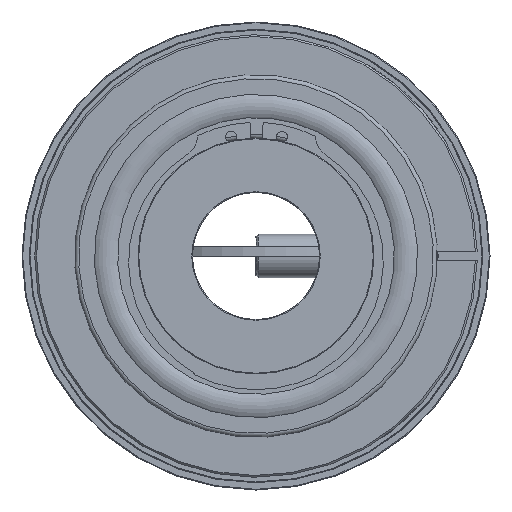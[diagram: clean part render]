
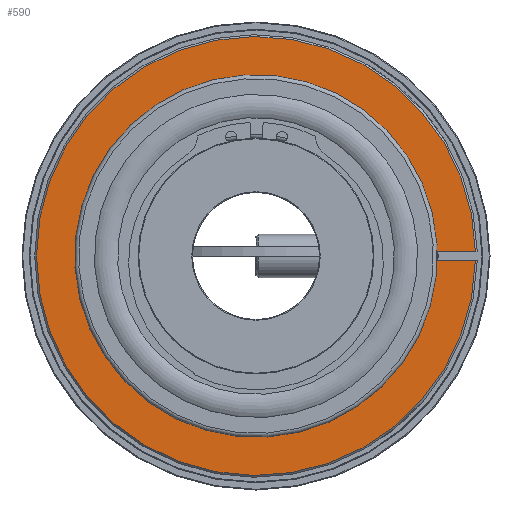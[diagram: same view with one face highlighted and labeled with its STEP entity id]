
A CAD part, left-side view. The second image highlights one B-rep face of the part: STEP entity #590.
In plain terms, the highlighted planar face has unit normal (-1, 0, 0).
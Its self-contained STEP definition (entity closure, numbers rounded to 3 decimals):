
#590 = ADVANCED_FACE( '', ( #921 ), #922, .F. );
#921 = FACE_OUTER_BOUND( '', #1324, .T. );
#922 = PLANE( '', #1325 );
#1324 = EDGE_LOOP( '', ( #1896, #1897, #1898, #1899, #1900, #1901, #1902, #1903 ) );
#1325 = AXIS2_PLACEMENT_3D( '', #1904, #1905, #1906 );
#1896 = ORIENTED_EDGE( '', *, *, #2895, .T. );
#1897 = ORIENTED_EDGE( '', *, *, #2876, .T. );
#1898 = ORIENTED_EDGE( '', *, *, #2872, .T. );
#1899 = ORIENTED_EDGE( '', *, *, #2881, .T. );
#1900 = ORIENTED_EDGE( '', *, *, #2894, .T. );
#1901 = ORIENTED_EDGE( '', *, *, #2890, .T. );
#1902 = ORIENTED_EDGE( '', *, *, #2896, .T. );
#1903 = ORIENTED_EDGE( '', *, *, #2897, .T. );
#1904 = CARTESIAN_POINT( '', ( -42., 61., 0. ) );
#1905 = DIRECTION( '', ( 1., 0., 0. ) );
#1906 = DIRECTION( '', ( 0., 1., 0. ) );
#2872 = EDGE_CURVE( '', #3165, #3163, #3166, .T. );
#2876 = EDGE_CURVE( '', #3170, #3165, #3172, .F. );
#2881 = EDGE_CURVE( '', #3163, #3178, #3181, .T. );
#2890 = EDGE_CURVE( '', #3197, #3195, #3198, .T. );
#2894 = EDGE_CURVE( '', #3178, #3197, #3203, .T. );
#2895 = EDGE_CURVE( '', #3204, #3170, #3205, .T. );
#2896 = EDGE_CURVE( '', #3195, #3206, #3207, .T. );
#2897 = EDGE_CURVE( '', #3206, #3204, #3208, .T. );
#3163 = VERTEX_POINT( '', #3715 );
#3165 = VERTEX_POINT( '', #3720 );
#3166 = LINE( '', #3721, #3722 );
#3170 = VERTEX_POINT( '', #3729 );
#3172 = CIRCLE( '', #3734, 60.5 );
#3178 = VERTEX_POINT( '', #3746 );
#3181 = CIRCLE( '', #3752, 35.5 );
#3195 = VERTEX_POINT( '', #3767 );
#3197 = VERTEX_POINT( '', #3770 );
#3198 = CIRCLE( '', #3771, 1.3 );
#3203 = LINE( '', #3781, #3782 );
#3204 = VERTEX_POINT( '', #3783 );
#3205 = LINE( '', #3784, #3785 );
#3206 = VERTEX_POINT( '', #3786 );
#3207 = LINE( '', #3787, #3788 );
#3208 = CIRCLE( '', #3789, 35.5 );
#3715 = CARTESIAN_POINT( '', ( -42., -35.476, -1.3 ) );
#3720 = CARTESIAN_POINT( '', ( -42., -60.486, -1.3 ) );
#3721 = CARTESIAN_POINT( '', ( -42., 61., -1.3 ) );
#3722 = VECTOR( '', #4120, 1000. );
#3729 = CARTESIAN_POINT( '', ( -42., -60.486, 1.3 ) );
#3734 = AXIS2_PLACEMENT_3D( '', #4124, #4125, #4126 );
#3746 = CARTESIAN_POINT( '', ( -42., 35.476, -1.3 ) );
#3752 = AXIS2_PLACEMENT_3D( '', #4130, #4131, #4132 );
#3767 = CARTESIAN_POINT( '', ( -42., 43.7, 1.3 ) );
#3770 = CARTESIAN_POINT( '', ( -42., 43.7, -1.3 ) );
#3771 = AXIS2_PLACEMENT_3D( '', #4153, #4154, #4155 );
#3781 = CARTESIAN_POINT( '', ( -42., 61., -1.3 ) );
#3782 = VECTOR( '', #4158, 1000. );
#3783 = CARTESIAN_POINT( '', ( -42., -35.476, 1.3 ) );
#3784 = CARTESIAN_POINT( '', ( -42., 61., 1.3 ) );
#3785 = VECTOR( '', #4159, 1000. );
#3786 = CARTESIAN_POINT( '', ( -42., 35.476, 1.3 ) );
#3787 = CARTESIAN_POINT( '', ( -42., 61., 1.3 ) );
#3788 = VECTOR( '', #4160, 1000. );
#3789 = AXIS2_PLACEMENT_3D( '', #4161, #4162, #4163 );
#4120 = DIRECTION( '', ( 0., 1., 0. ) );
#4124 = CARTESIAN_POINT( '', ( -42., 0., 0. ) );
#4125 = DIRECTION( '', ( 1., 0., 0. ) );
#4126 = DIRECTION( '', ( 0., 0., -1. ) );
#4130 = CARTESIAN_POINT( '', ( -42., 0., 0. ) );
#4131 = DIRECTION( '', ( 1., 0., 0. ) );
#4132 = DIRECTION( '', ( 0., 0., -1. ) );
#4153 = CARTESIAN_POINT( '', ( -42., 43.7, 0. ) );
#4154 = DIRECTION( '', ( 1., 0., 0. ) );
#4155 = DIRECTION( '', ( 0., 0., -1. ) );
#4158 = DIRECTION( '', ( 0., 1., 0. ) );
#4159 = DIRECTION( '', ( 0., -1., 0. ) );
#4160 = DIRECTION( '', ( 0., -1., 0. ) );
#4161 = CARTESIAN_POINT( '', ( -42., 0., 0. ) );
#4162 = DIRECTION( '', ( 1., 0., 0. ) );
#4163 = DIRECTION( '', ( 0., 0., -1. ) );
